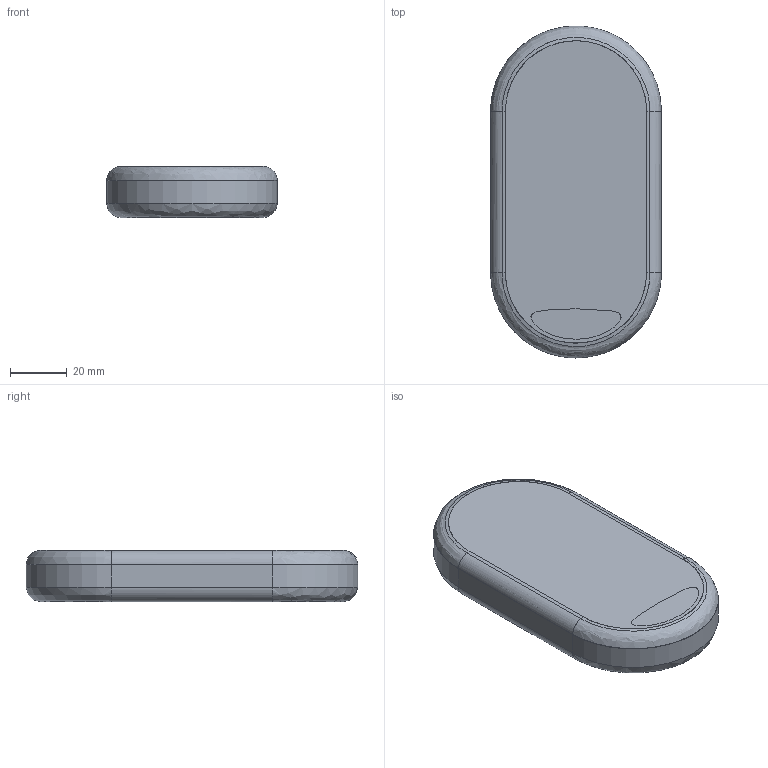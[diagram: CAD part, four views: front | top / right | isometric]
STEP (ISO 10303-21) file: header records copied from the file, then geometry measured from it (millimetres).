
FILE_DESCRIPTION((''),'2;1');
FILE_NAME('ID-GTC-FRONT-RING_PRT','2008-06-30T',('GRA'),(''),'PRO/ENGINEER BY PARAMETRIC TECHNOLOGY CORPORATION, 2006170','PRO/ENGINEER BY PARAMETRIC TECHNOLOGY CORPORATION, 2006170','');
FILE_SCHEMA(('CONFIG_CONTROL_DESIGN'));
Length unit declared in the file: millimetre
Products named in the file (1): ID-GTC-FRONT-RING_PRT
Bounding box: 60 x 116.7 x 18 mm (x, y, z)
Volume: 2029.2 mm3; surface area: 25506.1 mm2
Topology: 1 solids, 4 shells, 34 faces, 74 edges, 44 vertices
Faces by surface type: bspline 12, plane 8, extrusion 8, cylinder 6
Entity records: 3763 total; most frequent: CARTESIAN_POINT 3092, ORIENTED_EDGE 140, DIRECTION 82, EDGE_CURVE 74, B_SPLINE_CURVE_WITH_KNOTS 46, VERTEX_POINT 44, VECTOR 36, EDGE_LOOP 35
